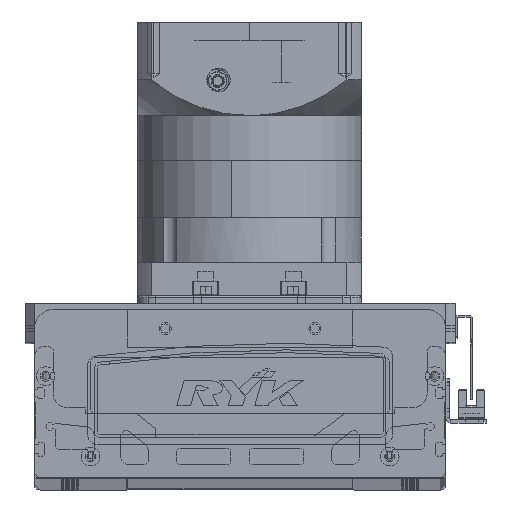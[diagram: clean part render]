
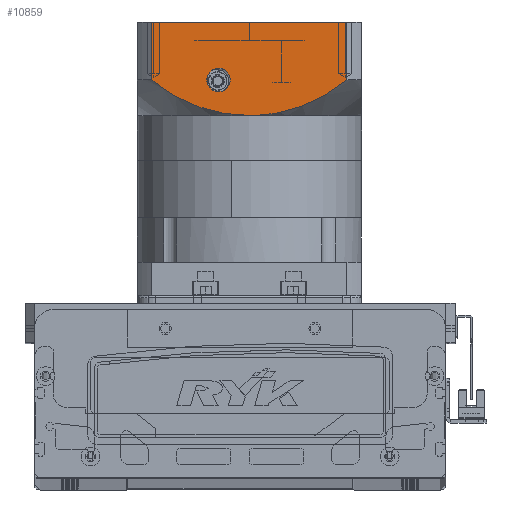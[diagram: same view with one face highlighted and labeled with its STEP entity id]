
A CAD part, top view. The second image highlights one B-rep face of the part: STEP entity #10859.
In plain terms, the highlighted planar face has unit normal (0, 0, 1) as drawn and (0, -1, 0) by its records, which use the part's own axes.
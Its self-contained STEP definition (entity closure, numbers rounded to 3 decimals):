
#434 = ORIENTED_EDGE ( 'NONE', *, *, #27895, .F. ) ;
#976 = CARTESIAN_POINT ( 'NONE',  ( -39.546, -60., -110.776 ) ) ;
#1240 = CARTESIAN_POINT ( 'NONE',  ( -29.939, -60., -106.183 ) ) ;
#2862 = CARTESIAN_POINT ( 'NONE',  ( 52.156, -60., -119.5 ) ) ;
#3384 = CARTESIAN_POINT ( 'NONE',  ( 15.267, -60., -101.938 ) ) ;
#4440 = CARTESIAN_POINT ( 'NONE',  ( -52.156, -60., -119.5 ) ) ;
#5235 = VERTEX_POINT ( 'NONE', #60008 ) ;
#6489 = EDGE_CURVE ( 'NONE', #67533, #64118, #63289, .T. ) ;
#7213 = CARTESIAN_POINT ( 'NONE',  ( -4.747, -60., -100.604 ) ) ;
#7518 = FACE_OUTER_BOUND ( 'NONE', #11270, .T. ) ;
#7733 = CARTESIAN_POINT ( 'NONE',  ( -38.51, -60., -110.207 ) ) ;
#9005 = DIRECTION ( 'NONE',  ( 0., 1., 0. ) ) ;
#9098 = B_SPLINE_CURVE_WITH_KNOTS ( 'NONE', 3,
 ( #67946, #68717, #15051, #3384, #9332, #15559, #61990, #26475, #50296, #50544, #50797, #73866, #32453, #38414, #44617, #51054, #14539, #2862 ),
 .UNSPECIFIED., .F., .F.,
 ( 4, 2, 2, 2, 2, 2, 2, 2, 4 ),
 ( 0., 0.014, 0.018, 0.021, 0.028, 0.042, 0.046, 0.05, 0.057 ),
 .UNSPECIFIED. ) ;
#9332 = CARTESIAN_POINT ( 'NONE',  ( 16.426, -60., -102.169 ) ) ;
#9384 = AXIS2_PLACEMENT_3D ( 'NONE', #44347, #49781, #25691 ) ;
#10859 = ADVANCED_FACE ( 'NONE', ( #7518, #20467 ), #36688, .T. ) ;
#11270 = EDGE_LOOP ( 'NONE', ( #38642, #59516, #59552, #434, #34853 ) ) ;
#11549 = DIRECTION ( 'NONE',  ( 0., 0., 1. ) ) ;
#12642 = CARTESIAN_POINT ( 'NONE',  ( -23.319, -60., -103.777 ) ) ;
#13078 = DIRECTION ( 'NONE',  ( 0., -1., 0. ) ) ;
#14539 = CARTESIAN_POINT ( 'NONE',  ( 50.338, -60., -117.969 ) ) ;
#15051 = CARTESIAN_POINT ( 'NONE',  ( 9.454, -60., -100.914 ) ) ;
#15559 = CARTESIAN_POINT ( 'NONE',  ( 18.739, -60., -102.681 ) ) ;
#15581 = CARTESIAN_POINT ( 'NONE',  ( 16.5, -60., -113.25 ) ) ;
#18892 = CARTESIAN_POINT ( 'NONE',  ( -2.376, -60., -100.5 ) ) ;
#19662 = CARTESIAN_POINT ( 'NONE',  ( -48.52, -60., -116.438 ) ) ;
#20467 = FACE_BOUND ( 'NONE', #24954, .T. ) ;
#21643 = VERTEX_POINT ( 'NONE', #4440 ) ;
#22219 = VERTEX_POINT ( 'NONE', #39234 ) ;
#23509 = CARTESIAN_POINT ( 'NONE',  ( 52.156, -60., -150.5 ) ) ;
#24954 = EDGE_LOOP ( 'NONE', ( #76574, #51606 ) ) ;
#25274 = B_SPLINE_CURVE_WITH_KNOTS ( 'NONE', 3,
 ( #43252, #19662, #36506, #976, #7733, #72246, #55182, #61134, #1240, #12642, #72999, #37557, #37026, #72747, #48167, #7213, #18892, #54138 ),
 .UNSPECIFIED., .F., .F.,
 ( 4, 2, 2, 2, 2, 2, 2, 2, 4 ),
 ( 0., 0.014, 0.018, 0.021, 0.028, 0.042, 0.046, 0.05, 0.057 ),
 .UNSPECIFIED. ) ;
#25526 = DIRECTION ( 'NONE',  ( 1., 0., 0. ) ) ;
#25691 = DIRECTION ( 'NONE',  ( 0., 0., -1. ) ) ;
#25795 = DIRECTION ( 'NONE',  ( 1., 0., 0. ) ) ;
#26475 = CARTESIAN_POINT ( 'NONE',  ( 23.329, -60., -103.886 ) ) ;
#27895 = EDGE_CURVE ( 'NONE', #35761, #5235, #9098, .T. ) ;
#30117 = EDGE_CURVE ( 'NONE', #22219, #46656, #68637, .T. ) ;
#32352 = EDGE_CURVE ( 'NONE', #21643, #35761, #25274, .T. ) ;
#32453 = CARTESIAN_POINT ( 'NONE',  ( 42.555, -60., -112.543 ) ) ;
#32878 = CARTESIAN_POINT ( 'NONE',  ( 16.5, -60., -119.5 ) ) ;
#34853 = ORIENTED_EDGE ( 'NONE', *, *, #32352, .F. ) ;
#35761 = VERTEX_POINT ( 'NONE', #66432 ) ;
#36230 = EDGE_CURVE ( 'NONE', #64118, #67533, #72057, .T. ) ;
#36425 = CARTESIAN_POINT ( 'NONE',  ( -60., -60., -150.5 ) ) ;
#36506 = CARTESIAN_POINT ( 'NONE',  ( -44.656, -60., -113.73 ) ) ;
#36688 = PLANE ( 'NONE',  #53146 ) ;
#37026 = CARTESIAN_POINT ( 'NONE',  ( -11.825, -60., -101.356 ) ) ;
#37557 = CARTESIAN_POINT ( 'NONE',  ( -12.993, -60., -101.537 ) ) ;
#38414 = CARTESIAN_POINT ( 'NONE',  ( 44.553, -60., -113.817 ) ) ;
#38642 = ORIENTED_EDGE ( 'NONE', *, *, #45617, .F. ) ;
#39234 = CARTESIAN_POINT ( 'NONE',  ( -52.156, -60., -150.5 ) ) ;
#39859 = VECTOR ( 'NONE', #25795, 1000. ) ;
#40333 = LINE ( 'NONE', #49612, #44942 ) ;
#43252 = CARTESIAN_POINT ( 'NONE',  ( -52.156, -60., -119.5 ) ) ;
#44347 = CARTESIAN_POINT ( 'NONE',  ( 16.5, -60., -119.5 ) ) ;
#44617 = CARTESIAN_POINT ( 'NONE',  ( 45.542, -60., -114.478 ) ) ;
#44942 = VECTOR ( 'NONE', #68026, 1000. ) ;
#45617 = EDGE_CURVE ( 'NONE', #22219, #21643, #40333, .T. ) ;
#46656 = VERTEX_POINT ( 'NONE', #76737 ) ;
#47504 = LINE ( 'NONE', #23509, #50327 ) ;
#48167 = CARTESIAN_POINT ( 'NONE',  ( -8.294, -60., -100.916 ) ) ;
#48452 = EDGE_CURVE ( 'NONE', #46656, #5235, #47504, .T. ) ;
#49612 = CARTESIAN_POINT ( 'NONE',  ( -52.156, -60., -97.5 ) ) ;
#49781 = DIRECTION ( 'NONE',  ( 0., 1., 0. ) ) ;
#50296 = CARTESIAN_POINT ( 'NONE',  ( 25.577, -60., -104.596 ) ) ;
#50327 = VECTOR ( 'NONE', #11549, 1000. ) ;
#50544 = CARTESIAN_POINT ( 'NONE',  ( 32.196, -60., -107.007 ) ) ;
#50797 = CARTESIAN_POINT ( 'NONE',  ( 36.444, -60., -108.986 ) ) ;
#51054 = CARTESIAN_POINT ( 'NONE',  ( 48.457, -60., -116.522 ) ) ;
#51606 = ORIENTED_EDGE ( 'NONE', *, *, #36230, .T. ) ;
#53146 = AXIS2_PLACEMENT_3D ( 'NONE', #36425, #13078, #25526 ) ;
#53548 = CARTESIAN_POINT ( 'NONE',  ( -60., -60., -150.5 ) ) ;
#54138 = CARTESIAN_POINT ( 'NONE',  ( 0., -60., -100.5 ) ) ;
#55182 = CARTESIAN_POINT ( 'NONE',  ( -35.342, -60., -108.587 ) ) ;
#56238 = CARTESIAN_POINT ( 'NONE',  ( 16.5, -60., -125.75 ) ) ;
#59516 = ORIENTED_EDGE ( 'NONE', *, *, #30117, .T. ) ;
#59552 = ORIENTED_EDGE ( 'NONE', *, *, #48452, .T. ) ;
#60008 = CARTESIAN_POINT ( 'NONE',  ( 52.156, -60., -119.5 ) ) ;
#61134 = CARTESIAN_POINT ( 'NONE',  ( -32.118, -60., -107.084 ) ) ;
#61990 = CARTESIAN_POINT ( 'NONE',  ( 19.894, -60., -102.964 ) ) ;
#63289 = CIRCLE ( 'NONE', #66782, 6.25 ) ;
#64118 = VERTEX_POINT ( 'NONE', #15581 ) ;
#66432 = CARTESIAN_POINT ( 'NONE',  ( 0., -60., -100.5 ) ) ;
#66782 = AXIS2_PLACEMENT_3D ( 'NONE', #32878, #9005, #74560 ) ;
#67533 = VERTEX_POINT ( 'NONE', #56238 ) ;
#67946 = CARTESIAN_POINT ( 'NONE',  ( 0., -60., -100.5 ) ) ;
#68026 = DIRECTION ( 'NONE',  ( 0., 0., 1. ) ) ;
#68637 = LINE ( 'NONE', #53548, #39859 ) ;
#68717 = CARTESIAN_POINT ( 'NONE',  ( 4.753, -60., -100.5 ) ) ;
#72057 = CIRCLE ( 'NONE', #9384, 6.25 ) ;
#72246 = CARTESIAN_POINT ( 'NONE',  ( -36.409, -60., -109.113 ) ) ;
#72747 = CARTESIAN_POINT ( 'NONE',  ( -9.477, -60., -101.046 ) ) ;
#72999 = CARTESIAN_POINT ( 'NONE',  ( -18.792, -60., -102.562 ) ) ;
#73866 = CARTESIAN_POINT ( 'NONE',  ( 41.545, -60., -111.931 ) ) ;
#74560 = DIRECTION ( 'NONE',  ( 0., 0., -1. ) ) ;
#76574 = ORIENTED_EDGE ( 'NONE', *, *, #6489, .T. ) ;
#76737 = CARTESIAN_POINT ( 'NONE',  ( 52.156, -60., -150.5 ) ) ;
